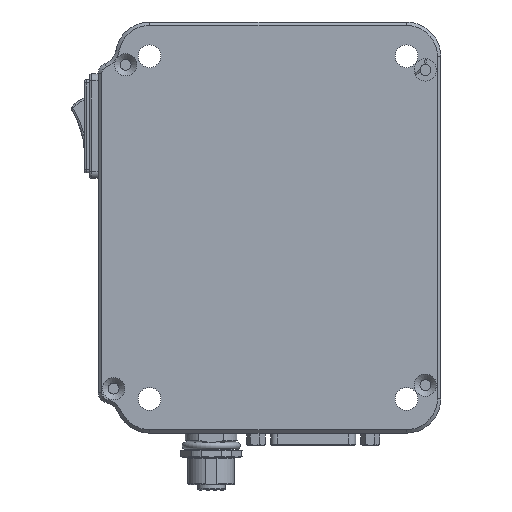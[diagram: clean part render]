
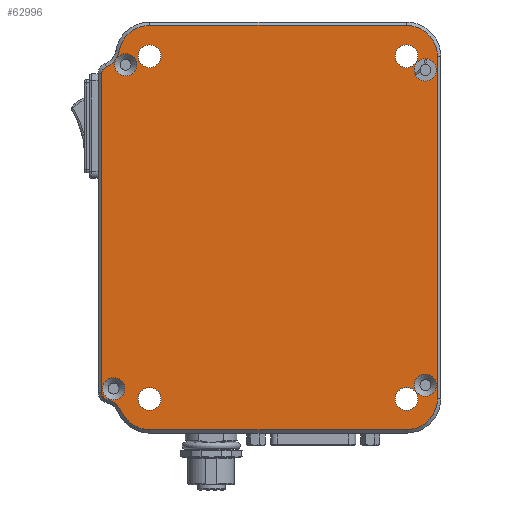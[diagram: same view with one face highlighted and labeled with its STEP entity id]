
A CAD part, front view. The second image highlights one B-rep face of the part: STEP entity #62996.
In plain terms, the highlighted planar face has unit normal (0, -1, 0).
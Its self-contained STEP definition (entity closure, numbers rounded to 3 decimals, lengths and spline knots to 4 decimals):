
#3772=FACE_BOUND('',#22370,.T.);
#3773=FACE_BOUND('',#22371,.T.);
#3774=FACE_BOUND('',#22372,.T.);
#3775=FACE_BOUND('',#22373,.T.);
#3776=FACE_BOUND('',#22374,.T.);
#3777=FACE_BOUND('',#22375,.T.);
#3778=FACE_BOUND('',#22376,.T.);
#3779=FACE_BOUND('',#22377,.T.);
#6245=LINE('',#94924,#12194);
#6246=LINE('',#94932,#12195);
#6247=LINE('',#94936,#12196);
#6248=LINE('',#94940,#12197);
#12194=VECTOR('',#72877,0.3937);
#12195=VECTOR('',#72884,0.3937);
#12196=VECTOR('',#72887,0.3937);
#12197=VECTOR('',#72890,0.3937);
#16606=PLANE('',#66179);
#18890=FACE_OUTER_BOUND('',#22369,.T.);
#22369=EDGE_LOOP('',(#46534,#46535,#46536,#46537,#46538,#46539,#46540,#46541,
#46542,#46543,#46544,#46545));
#22370=EDGE_LOOP('',(#46546));
#22371=EDGE_LOOP('',(#46547));
#22372=EDGE_LOOP('',(#46548));
#22373=EDGE_LOOP('',(#46549));
#22374=EDGE_LOOP('',(#46550));
#22375=EDGE_LOOP('',(#46551));
#22376=EDGE_LOOP('',(#46552));
#22377=EDGE_LOOP('',(#46553));
#24883=CIRCLE('',#65296,0.131);
#24886=CIRCLE('',#65301,0.131);
#24889=CIRCLE('',#65306,0.131);
#24892=CIRCLE('',#65311,0.131);
#24981=CIRCLE('',#66166,0.128);
#24983=CIRCLE('',#66170,0.128);
#24985=CIRCLE('',#66174,0.128);
#24987=CIRCLE('',#66178,0.128);
#24988=CIRCLE('',#66180,0.0787);
#24989=CIRCLE('',#66181,0.2362);
#24990=CIRCLE('',#66182,0.3543);
#24991=CIRCLE('',#66183,0.3543);
#24992=CIRCLE('',#66184,0.3543);
#24993=CIRCLE('',#66185,0.3543);
#24994=CIRCLE('',#66186,0.2362);
#24995=CIRCLE('',#66187,0.0787);
#25643=VERTEX_POINT('',#81852);
#25646=VERTEX_POINT('',#81861);
#25649=VERTEX_POINT('',#81870);
#25652=VERTEX_POINT('',#81879);
#27682=VERTEX_POINT('',#94894);
#27684=VERTEX_POINT('',#94902);
#27686=VERTEX_POINT('',#94910);
#27688=VERTEX_POINT('',#94918);
#27689=VERTEX_POINT('',#94922);
#27690=VERTEX_POINT('',#94923);
#27691=VERTEX_POINT('',#94925);
#27692=VERTEX_POINT('',#94927);
#27693=VERTEX_POINT('',#94929);
#27694=VERTEX_POINT('',#94931);
#27695=VERTEX_POINT('',#94933);
#27696=VERTEX_POINT('',#94935);
#27697=VERTEX_POINT('',#94937);
#27698=VERTEX_POINT('',#94939);
#27699=VERTEX_POINT('',#94941);
#27700=VERTEX_POINT('',#94943);
#31592=EDGE_CURVE('',#25643,#25643,#24883,.T.);
#31596=EDGE_CURVE('',#25646,#25646,#24886,.T.);
#31600=EDGE_CURVE('',#25649,#25649,#24889,.T.);
#31604=EDGE_CURVE('',#25652,#25652,#24892,.T.);
#34610=EDGE_CURVE('',#27682,#27682,#24981,.T.);
#34614=EDGE_CURVE('',#27684,#27684,#24983,.T.);
#34618=EDGE_CURVE('',#27686,#27686,#24985,.T.);
#34622=EDGE_CURVE('',#27688,#27688,#24987,.T.);
#34624=EDGE_CURVE('',#27689,#27690,#6245,.T.);
#34625=EDGE_CURVE('',#27691,#27689,#24988,.T.);
#34626=EDGE_CURVE('',#27692,#27691,#24989,.T.);
#34627=EDGE_CURVE('',#27693,#27692,#24990,.T.);
#34628=EDGE_CURVE('',#27694,#27693,#6246,.T.);
#34629=EDGE_CURVE('',#27695,#27694,#24991,.T.);
#34630=EDGE_CURVE('',#27696,#27695,#6247,.T.);
#34631=EDGE_CURVE('',#27697,#27696,#24992,.T.);
#34632=EDGE_CURVE('',#27698,#27697,#6248,.T.);
#34633=EDGE_CURVE('',#27699,#27698,#24993,.T.);
#34634=EDGE_CURVE('',#27700,#27699,#24994,.T.);
#34635=EDGE_CURVE('',#27690,#27700,#24995,.T.);
#46534=ORIENTED_EDGE('',*,*,#34624,.F.);
#46535=ORIENTED_EDGE('',*,*,#34625,.F.);
#46536=ORIENTED_EDGE('',*,*,#34626,.F.);
#46537=ORIENTED_EDGE('',*,*,#34627,.F.);
#46538=ORIENTED_EDGE('',*,*,#34628,.F.);
#46539=ORIENTED_EDGE('',*,*,#34629,.F.);
#46540=ORIENTED_EDGE('',*,*,#34630,.F.);
#46541=ORIENTED_EDGE('',*,*,#34631,.F.);
#46542=ORIENTED_EDGE('',*,*,#34632,.F.);
#46543=ORIENTED_EDGE('',*,*,#34633,.F.);
#46544=ORIENTED_EDGE('',*,*,#34634,.F.);
#46545=ORIENTED_EDGE('',*,*,#34635,.F.);
#46546=ORIENTED_EDGE('',*,*,#31592,.T.);
#46547=ORIENTED_EDGE('',*,*,#31596,.T.);
#46548=ORIENTED_EDGE('',*,*,#31604,.T.);
#46549=ORIENTED_EDGE('',*,*,#31600,.T.);
#46550=ORIENTED_EDGE('',*,*,#34610,.T.);
#46551=ORIENTED_EDGE('',*,*,#34614,.T.);
#46552=ORIENTED_EDGE('',*,*,#34618,.T.);
#46553=ORIENTED_EDGE('',*,*,#34622,.T.);
#62996=ADVANCED_FACE('',(#18890,#3772,#3773,#3774,#3775,#3776,#3777,#3778,
#3779),#16606,.F.);
#65296=AXIS2_PLACEMENT_3D('',#81854,#68868,#68869);
#65301=AXIS2_PLACEMENT_3D('',#81863,#68879,#68880);
#65306=AXIS2_PLACEMENT_3D('',#81872,#68890,#68891);
#65311=AXIS2_PLACEMENT_3D('',#81881,#68901,#68902);
#66166=AXIS2_PLACEMENT_3D('',#94895,#72842,#72843);
#66170=AXIS2_PLACEMENT_3D('',#94903,#72852,#72853);
#66174=AXIS2_PLACEMENT_3D('',#94911,#72862,#72863);
#66178=AXIS2_PLACEMENT_3D('',#94919,#72872,#72873);
#66179=AXIS2_PLACEMENT_3D('',#94921,#72875,#72876);
#66180=AXIS2_PLACEMENT_3D('',#94926,#72878,#72879);
#66181=AXIS2_PLACEMENT_3D('',#94928,#72880,#72881);
#66182=AXIS2_PLACEMENT_3D('',#94930,#72882,#72883);
#66183=AXIS2_PLACEMENT_3D('',#94934,#72885,#72886);
#66184=AXIS2_PLACEMENT_3D('',#94938,#72888,#72889);
#66185=AXIS2_PLACEMENT_3D('',#94942,#72891,#72892);
#66186=AXIS2_PLACEMENT_3D('',#94944,#72893,#72894);
#66187=AXIS2_PLACEMENT_3D('',#94945,#72895,#72896);
#68868=DIRECTION('center_axis',(0.,1.,0.));
#68869=DIRECTION('ref_axis',(1.,0.,0.));
#68879=DIRECTION('center_axis',(0.,1.,0.));
#68880=DIRECTION('ref_axis',(1.,0.,0.));
#68890=DIRECTION('center_axis',(0.,1.,0.));
#68891=DIRECTION('ref_axis',(1.,0.,0.));
#68901=DIRECTION('center_axis',(0.,1.,0.));
#68902=DIRECTION('ref_axis',(1.,0.,0.));
#72842=DIRECTION('center_axis',(0.,1.,0.));
#72843=DIRECTION('ref_axis',(1.,0.,0.));
#72852=DIRECTION('center_axis',(0.,1.,0.));
#72853=DIRECTION('ref_axis',(1.,0.,0.));
#72862=DIRECTION('center_axis',(0.,1.,0.));
#72863=DIRECTION('ref_axis',(1.,0.,0.));
#72872=DIRECTION('center_axis',(0.,1.,0.));
#72873=DIRECTION('ref_axis',(1.,0.,0.));
#72875=DIRECTION('center_axis',(0.,1.,0.));
#72876=DIRECTION('ref_axis',(-1.,0.,0.));
#72877=DIRECTION('',(0.,0.,1.));
#72878=DIRECTION('center_axis',(0.,1.,0.));
#72879=DIRECTION('ref_axis',(-1.,0.,0.));
#72880=DIRECTION('center_axis',(0.,-1.,0.));
#72881=DIRECTION('ref_axis',(0.548,0.,0.837));
#72882=DIRECTION('center_axis',(0.,1.,0.));
#72883=DIRECTION('ref_axis',(0.,0.,-1.));
#72884=DIRECTION('',(-1.,0.,0.));
#72885=DIRECTION('center_axis',(0.,1.,0.));
#72886=DIRECTION('ref_axis',(0.707,0.,-0.707));
#72887=DIRECTION('',(0.,0.,-1.));
#72888=DIRECTION('center_axis',(0.,1.,0.));
#72889=DIRECTION('ref_axis',(0.707,0.,0.707));
#72890=DIRECTION('',(1.,0.,0.));
#72891=DIRECTION('center_axis',(0.,1.,0.));
#72892=DIRECTION('ref_axis',(-0.707,0.,0.707));
#72893=DIRECTION('center_axis',(0.,-1.,0.));
#72894=DIRECTION('ref_axis',(0.,0.,-1.));
#72895=DIRECTION('center_axis',(0.,1.,0.));
#72896=DIRECTION('ref_axis',(-1.,0.,0.));
#81852=CARTESIAN_POINT('',(-4.7274,0.5292,-0.3937));
#81854=CARTESIAN_POINT('Origin',(-4.8584,0.5292,-0.3937));
#81861=CARTESIAN_POINT('',(-1.7747,0.5292,-4.3307));
#81863=CARTESIAN_POINT('Origin',(-1.9057,0.5292,-4.3307));
#81870=CARTESIAN_POINT('',(-4.7274,0.5292,-4.3307));
#81872=CARTESIAN_POINT('Origin',(-4.8584,0.5292,-4.3307));
#81879=CARTESIAN_POINT('',(-1.7747,0.5292,-0.3937));
#81881=CARTESIAN_POINT('Origin',(-1.9057,0.5292,-0.3937));
#94894=CARTESIAN_POINT('',(-1.8171,0.5292,-4.1732));
#94895=CARTESIAN_POINT('Origin',(-1.6892,0.5292,-4.1732));
#94902=CARTESIAN_POINT('',(-5.3998,0.5292,-4.2126));
#94903=CARTESIAN_POINT('Origin',(-5.2718,0.5292,-4.2126));
#94910=CARTESIAN_POINT('',(-1.8171,0.5292,-0.5512));
#94911=CARTESIAN_POINT('Origin',(-1.6892,0.5292,-0.5512));
#94918=CARTESIAN_POINT('',(-5.262,0.5292,-0.4921));
#94919=CARTESIAN_POINT('Origin',(-5.134,0.5292,-0.4921));
#94921=CARTESIAN_POINT('Origin',(-5.3506,0.5292,-1.2008));
#94922=CARTESIAN_POINT('',(-5.4096,0.5292,-4.2596));
#94923=CARTESIAN_POINT('',(-5.4096,0.5292,-0.5905));
#94924=CARTESIAN_POINT('',(-5.4096,0.5292,-1.5551));
#94925=CARTESIAN_POINT('',(-5.3481,0.5292,-4.3364));
#94926=CARTESIAN_POINT('Origin',(-5.3309,0.5292,-4.2596));
#94927=CARTESIAN_POINT('',(-5.1832,0.5292,-4.4724));
#94928=CARTESIAN_POINT('Origin',(-5.3997,0.5292,-4.5669));
#94929=CARTESIAN_POINT('',(-4.8584,0.5292,-4.685));
#94930=CARTESIAN_POINT('Origin',(-4.8584,0.5292,-4.3307));
#94931=CARTESIAN_POINT('',(-1.9057,0.5292,-4.685));
#94932=CARTESIAN_POINT('',(-3.4313,0.5292,-4.685));
#94933=CARTESIAN_POINT('',(-1.5514,0.5292,-4.3307));
#94934=CARTESIAN_POINT('Origin',(-1.9057,0.5292,-4.3307));
#94935=CARTESIAN_POINT('',(-1.5514,0.5292,-0.3937));
#94936=CARTESIAN_POINT('',(-1.5514,0.5292,-0.6004));
#94937=CARTESIAN_POINT('',(-1.9057,0.5292,-0.0394));
#94938=CARTESIAN_POINT('Origin',(-1.9057,0.5292,-0.3937));
#94939=CARTESIAN_POINT('',(-4.8584,0.5292,-0.0394));
#94940=CARTESIAN_POINT('',(-5.3014,0.5292,-0.0394));
#94941=CARTESIAN_POINT('',(-5.2078,0.5292,-0.3346));
#94942=CARTESIAN_POINT('Origin',(-4.8584,0.5292,-0.3937));
#94943=CARTESIAN_POINT('',(-5.3583,0.5292,-0.5167));
#94944=CARTESIAN_POINT('Origin',(-5.4407,0.5292,-0.2953));
#94945=CARTESIAN_POINT('Origin',(-5.3309,0.5292,-0.5905));
